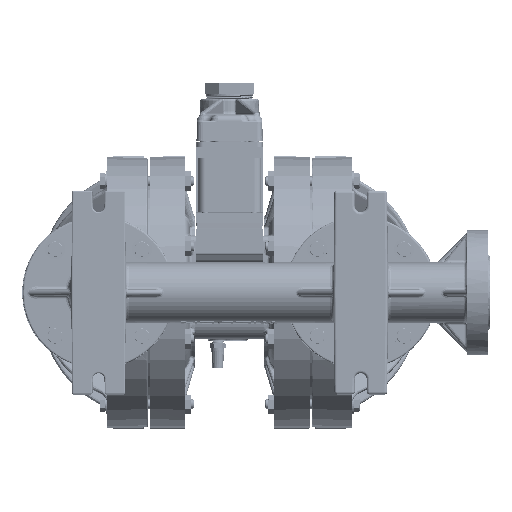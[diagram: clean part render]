
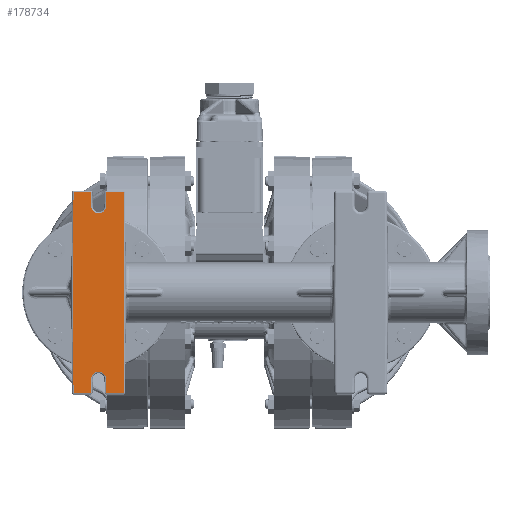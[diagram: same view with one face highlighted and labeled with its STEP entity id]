
A CAD part, front view. The second image highlights one B-rep face of the part: STEP entity #178734.
In plain terms, the highlighted planar face has unit normal (0, -1, 0).
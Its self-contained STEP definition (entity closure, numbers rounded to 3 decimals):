
#10001 = ORIENTED_EDGE ( 'NONE', *, *, #140104, .T. ) ;
#12058 = EDGE_CURVE ( 'NONE', #175029, #457298, #52243, .T. ) ;
#30180 = VERTEX_POINT ( 'NONE', #327247 ) ;
#35295 = CARTESIAN_POINT ( 'NONE',  ( -5.488, -12.884, 3.43 ) ) ;
#40283 = AXIS2_PLACEMENT_3D ( 'NONE', #201712, #305652, #162444 ) ;
#41634 = VECTOR ( 'NONE', #273495, 39.37 ) ;
#44008 = ORIENTED_EDGE ( 'NONE', *, *, #141429, .T. ) ;
#49590 = VECTOR ( 'NONE', #121772, 39.37 ) ;
#52243 = LINE ( 'NONE', #445977, #217963 ) ;
#53731 = VERTEX_POINT ( 'NONE', #280943 ) ;
#58280 = CARTESIAN_POINT ( 'NONE',  ( -4.9, -12.884, -3.43 ) ) ;
#67180 = ORIENTED_EDGE ( 'NONE', *, *, #446416, .T. ) ;
#71159 = DIRECTION ( 'NONE',  ( 0., 1., 0. ) ) ;
#72583 = CARTESIAN_POINT ( 'NONE',  ( -5.194, -12.884, -3.43 ) ) ;
#83946 = DIRECTION ( 'NONE',  ( 1., 0., 0. ) ) ;
#93264 = VERTEX_POINT ( 'NONE', #496533 ) ;
#93490 = CARTESIAN_POINT ( 'NONE',  ( -4.204, -12.884, -3.98 ) ) ;
#120304 = CARTESIAN_POINT ( 'NONE',  ( -5.488, -12.884, 3.425 ) ) ;
#121772 = DIRECTION ( 'NONE',  ( -0.009, 0., 1. ) ) ;
#123252 = PLANE ( 'NONE',  #579032 ) ;
#124090 = EDGE_CURVE ( 'NONE', #236134, #307521, #608777, .T. ) ;
#124381 = VECTOR ( 'NONE', #422261, 39.37 ) ;
#124724 = LINE ( 'NONE', #576929, #528483 ) ;
#126709 = VERTEX_POINT ( 'NONE', #533385 ) ;
#129690 = DIRECTION ( 'NONE',  ( 1., 0., -0.001 ) ) ;
#137148 = VERTEX_POINT ( 'NONE', #492393 ) ;
#140104 = EDGE_CURVE ( 'NONE', #395595, #320098, #124724, .T. ) ;
#140927 = EDGE_CURVE ( 'NONE', #464087, #395595, #396788, .T. ) ;
#141429 = EDGE_CURVE ( 'NONE', #126709, #275835, #299932, .T. ) ;
#144566 = VECTOR ( 'NONE', #256801, 39.37 ) ;
#152556 = ORIENTED_EDGE ( 'NONE', *, *, #411100, .T. ) ;
#162444 = DIRECTION ( 'NONE',  ( -1., 0., 0.001 ) ) ;
#173505 = DIRECTION ( 'NONE',  ( 0., 1., 0. ) ) ;
#175029 = VERTEX_POINT ( 'NONE', #443379 ) ;
#178734 = ADVANCED_FACE ( 'NONE', ( #569012 ), #123252, .F. ) ;
#183278 = CARTESIAN_POINT ( 'NONE',  ( -4.204, -12.884, -3.98 ) ) ;
#184160 = LINE ( 'NONE', #275317, #324860 ) ;
#184911 = CARTESIAN_POINT ( 'NONE',  ( -5.194, -12.884, 3.43 ) ) ;
#190210 = VECTOR ( 'NONE', #272995, 39.37 ) ;
#191822 = ORIENTED_EDGE ( 'NONE', *, *, #334165, .T. ) ;
#195868 = CARTESIAN_POINT ( 'NONE',  ( -5.488, -12.884, 3.43 ) ) ;
#195931 = AXIS2_PLACEMENT_3D ( 'NONE', #72583, #173505, #215900 ) ;
#198782 = DIRECTION ( 'NONE',  ( 1., 0., 0. ) ) ;
#199613 = CARTESIAN_POINT ( 'NONE',  ( -4.169, -12.884, 0. ) ) ;
#201712 = CARTESIAN_POINT ( 'NONE',  ( -5.194, -12.884, -3.43 ) ) ;
#203734 = AXIS2_PLACEMENT_3D ( 'NONE', #184911, #71159, #129690 ) ;
#203755 = LINE ( 'NONE', #242951, #599149 ) ;
#205259 = ORIENTED_EDGE ( 'NONE', *, *, #12058, .T. ) ;
#215900 = DIRECTION ( 'NONE',  ( -1., 0., 0.001 ) ) ;
#217963 = VECTOR ( 'NONE', #198782, 39.37 ) ;
#221522 = CARTESIAN_POINT ( 'NONE',  ( -5.493, -12.884, 3.98 ) ) ;
#223808 = LINE ( 'NONE', #559062, #124381 ) ;
#227741 = VERTEX_POINT ( 'NONE', #199613 ) ;
#236134 = VERTEX_POINT ( 'NONE', #120304 ) ;
#239039 = ORIENTED_EDGE ( 'NONE', *, *, #334766, .T. ) ;
#242951 = CARTESIAN_POINT ( 'NONE',  ( -5.493, -12.884, -3.98 ) ) ;
#247988 = DIRECTION ( 'NONE',  ( 1., 0., -0.001 ) ) ;
#248553 = CARTESIAN_POINT ( 'NONE',  ( -6.184, -12.884, 3.98 ) ) ;
#256801 = DIRECTION ( 'NONE',  ( 0.009, 0., -1. ) ) ;
#263148 = DIRECTION ( 'NONE',  ( -0.009, 0., -1. ) ) ;
#265484 = ORIENTED_EDGE ( 'NONE', *, *, #583005, .T. ) ;
#272995 = DIRECTION ( 'NONE',  ( -0.009, 0., 1. ) ) ;
#273495 = DIRECTION ( 'NONE',  ( -1., 0., 0. ) ) ;
#275317 = CARTESIAN_POINT ( 'NONE',  ( -4.895, -12.884, 3.98 ) ) ;
#275835 = VERTEX_POINT ( 'NONE', #588400 ) ;
#280943 = CARTESIAN_POINT ( 'NONE',  ( -4.204, -12.884, 3.98 ) ) ;
#284280 = DIRECTION ( 'NONE',  ( 1., 0., 0. ) ) ;
#291989 = DIRECTION ( 'NONE',  ( 0.009, 0., 1. ) ) ;
#299932 = CIRCLE ( 'NONE', #40283, 0.295 ) ;
#305652 = DIRECTION ( 'NONE',  ( 0., 1., 0. ) ) ;
#307521 = VERTEX_POINT ( 'NONE', #195868 ) ;
#313708 = LINE ( 'NONE', #421046, #49590 ) ;
#320098 = VERTEX_POINT ( 'NONE', #542716 ) ;
#324860 = VECTOR ( 'NONE', #483375, 39.37 ) ;
#327247 = CARTESIAN_POINT ( 'NONE',  ( -4.895, -12.884, 3.98 ) ) ;
#327934 = CIRCLE ( 'NONE', #556459, 0.295 ) ;
#328229 = LINE ( 'NONE', #35295, #190210 ) ;
#334165 = EDGE_CURVE ( 'NONE', #307521, #497363, #328229, .T. ) ;
#334766 = EDGE_CURVE ( 'NONE', #320098, #137148, #381923, .T. ) ;
#342337 = CARTESIAN_POINT ( 'NONE',  ( -6.219, -12.884, 0. ) ) ;
#346262 = ORIENTED_EDGE ( 'NONE', *, *, #493295, .T. ) ;
#370440 = DIRECTION ( 'NONE',  ( 0., 1., 0. ) ) ;
#381923 = LINE ( 'NONE', #482737, #450698 ) ;
#382458 = VERTEX_POINT ( 'NONE', #476291 ) ;
#392302 = ORIENTED_EDGE ( 'NONE', *, *, #398102, .T. ) ;
#393505 = ORIENTED_EDGE ( 'NONE', *, *, #632362, .T. ) ;
#394648 = EDGE_CURVE ( 'NONE', #137148, #126709, #203755, .T. ) ;
#395595 = VERTEX_POINT ( 'NONE', #342337 ) ;
#396788 = LINE ( 'NONE', #614573, #414200 ) ;
#398102 = EDGE_CURVE ( 'NONE', #227741, #53731, #313708, .T. ) ;
#402164 = DIRECTION ( 'NONE',  ( 0.009, 0., 1. ) ) ;
#403952 = CIRCLE ( 'NONE', #195931, 0.295 ) ;
#411100 = EDGE_CURVE ( 'NONE', #457298, #227741, #539290, .T. ) ;
#414200 = VECTOR ( 'NONE', #263148, 39.37 ) ;
#421046 = CARTESIAN_POINT ( 'NONE',  ( -4.169, -12.884, 0. ) ) ;
#422261 = DIRECTION ( 'NONE',  ( -1., 0., 0. ) ) ;
#430416 = DIRECTION ( 'NONE',  ( 0.009, 0., -1. ) ) ;
#436585 = VECTOR ( 'NONE', #291989, 39.37 ) ;
#443379 = CARTESIAN_POINT ( 'NONE',  ( -4.895, -12.884, -3.98 ) ) ;
#445977 = CARTESIAN_POINT ( 'NONE',  ( -4.895, -12.884, -3.98 ) ) ;
#446416 = EDGE_CURVE ( 'NONE', #382458, #175029, #556079, .T. ) ;
#450698 = VECTOR ( 'NONE', #284280, 39.37 ) ;
#452814 = CARTESIAN_POINT ( 'NONE',  ( -5.194, -12.884, 3.43 ) ) ;
#457298 = VERTEX_POINT ( 'NONE', #183278 ) ;
#459988 = ORIENTED_EDGE ( 'NONE', *, *, #494573, .T. ) ;
#461457 = EDGE_CURVE ( 'NONE', #30180, #93264, #184160, .T. ) ;
#464087 = VERTEX_POINT ( 'NONE', #248553 ) ;
#475230 = LINE ( 'NONE', #221522, #41634 ) ;
#476291 = CARTESIAN_POINT ( 'NONE',  ( -4.9, -12.884, -3.43 ) ) ;
#482737 = CARTESIAN_POINT ( 'NONE',  ( -6.184, -12.884, -3.98 ) ) ;
#483375 = DIRECTION ( 'NONE',  ( -0.009, 0., -1. ) ) ;
#492393 = CARTESIAN_POINT ( 'NONE',  ( -5.493, -12.884, -3.98 ) ) ;
#493295 = EDGE_CURVE ( 'NONE', #53731, #30180, #223808, .T. ) ;
#494573 = EDGE_CURVE ( 'NONE', #497363, #464087, #475230, .T. ) ;
#496533 = CARTESIAN_POINT ( 'NONE',  ( -4.9, -12.884, 3.43 ) ) ;
#497363 = VERTEX_POINT ( 'NONE', #544321 ) ;
#523325 = CARTESIAN_POINT ( 'NONE',  ( 0., -12.884, 0. ) ) ;
#528483 = VECTOR ( 'NONE', #430416, 39.37 ) ;
#533385 = CARTESIAN_POINT ( 'NONE',  ( -5.488, -12.884, -3.43 ) ) ;
#539290 = LINE ( 'NONE', #93490, #436585 ) ;
#542716 = CARTESIAN_POINT ( 'NONE',  ( -6.184, -12.884, -3.98 ) ) ;
#544321 = CARTESIAN_POINT ( 'NONE',  ( -5.493, -12.884, 3.98 ) ) ;
#553654 = DIRECTION ( 'NONE',  ( 0., 1., 0. ) ) ;
#556079 = LINE ( 'NONE', #58280, #144566 ) ;
#556459 = AXIS2_PLACEMENT_3D ( 'NONE', #452814, #553654, #247988 ) ;
#559062 = CARTESIAN_POINT ( 'NONE',  ( -4.204, -12.884, 3.98 ) ) ;
#569012 = FACE_OUTER_BOUND ( 'NONE', #593850, .T. ) ;
#570126 = ORIENTED_EDGE ( 'NONE', *, *, #124090, .T. ) ;
#576929 = CARTESIAN_POINT ( 'NONE',  ( -6.219, -12.884, 0. ) ) ;
#579032 = AXIS2_PLACEMENT_3D ( 'NONE', #523325, #370440, #83946 ) ;
#583005 = EDGE_CURVE ( 'NONE', #275835, #382458, #403952, .T. ) ;
#588400 = CARTESIAN_POINT ( 'NONE',  ( -4.9, -12.884, -3.425 ) ) ;
#593850 = EDGE_LOOP ( 'NONE', ( #615399, #10001, #239039, #613017, #44008, #265484, #67180, #205259, #152556, #392302, #346262, #603531, #393505, #570126, #191822, #459988 ) ) ;
#599149 = VECTOR ( 'NONE', #402164, 39.37 ) ;
#603531 = ORIENTED_EDGE ( 'NONE', *, *, #461457, .T. ) ;
#608777 = CIRCLE ( 'NONE', #203734, 0.295 ) ;
#613017 = ORIENTED_EDGE ( 'NONE', *, *, #394648, .T. ) ;
#614573 = CARTESIAN_POINT ( 'NONE',  ( -6.184, -12.884, 3.98 ) ) ;
#615399 = ORIENTED_EDGE ( 'NONE', *, *, #140927, .T. ) ;
#632362 = EDGE_CURVE ( 'NONE', #93264, #236134, #327934, .T. ) ;
